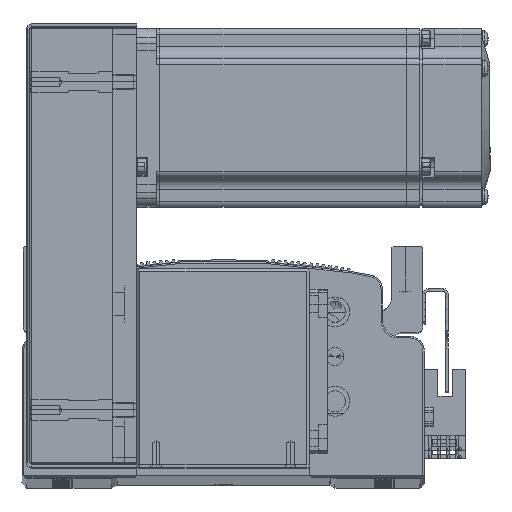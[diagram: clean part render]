
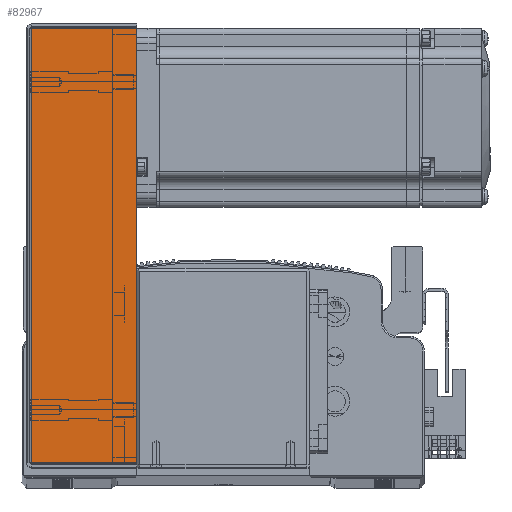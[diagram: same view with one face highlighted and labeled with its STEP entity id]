
A CAD part, top view. The second image highlights one B-rep face of the part: STEP entity #82967.
In plain terms, the highlighted planar face has unit normal (0, 0, 1).
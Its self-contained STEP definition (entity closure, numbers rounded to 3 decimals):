
#5735 = CARTESIAN_POINT ( 'NONE',  ( 72.793, 36., 34.5 ) ) ;
#5770 = CARTESIAN_POINT ( 'NONE',  ( -72.793, 36., 34.5 ) ) ;
#5776 = CARTESIAN_POINT ( 'NONE',  ( 72.793, 0.737, 34.5 ) ) ;
#5821 = CARTESIAN_POINT ( 'NONE',  ( -72.793, 0.737, 34.5 ) ) ;
#6576 = PLANE ( 'NONE',  #48467 ) ;
#6578 = CARTESIAN_POINT ( 'NONE',  ( 0., 0., 34.5 ) ) ;
#6594 = DIRECTION ( 'NONE',  ( -1., 0., 0. ) ) ;
#6612 = DIRECTION ( 'NONE',  ( 0., 0., -1. ) ) ;
#14971 = FACE_OUTER_BOUND ( 'NONE', #81177, .T. ) ;
#21594 = ORIENTED_EDGE ( 'NONE', *, *, #75073, .T. ) ;
#21595 = ORIENTED_EDGE ( 'NONE', *, *, #75017, .F. ) ;
#21620 = ORIENTED_EDGE ( 'NONE', *, *, #75057, .T. ) ;
#21624 = ORIENTED_EDGE ( 'NONE', *, *, #75027, .F. ) ;
#31761 = VECTOR ( 'NONE', #52332, 1000. ) ;
#31770 = LINE ( 'NONE', #52325, #31761 ) ;
#32907 = LINE ( 'NONE', #51739, #32924 ) ;
#32924 = VECTOR ( 'NONE', #51713, 1000. ) ;
#32944 = LINE ( 'NONE', #51894, #32952 ) ;
#32952 = VECTOR ( 'NONE', #51862, 1000. ) ;
#32975 = VECTOR ( 'NONE', #52124, 1000. ) ;
#33006 = LINE ( 'NONE', #52229, #32975 ) ;
#48467 = AXIS2_PLACEMENT_3D ( 'NONE', #6578, #6612, #6594 ) ;
#51713 = DIRECTION ( 'NONE',  ( 0., 1., 0. ) ) ;
#51739 = CARTESIAN_POINT ( 'NONE',  ( -72.793, 0., 34.5 ) ) ;
#51862 = DIRECTION ( 'NONE',  ( -1., 0., 0. ) ) ;
#51894 = CARTESIAN_POINT ( 'NONE',  ( -74.5, 0.737, 34.5 ) ) ;
#52124 = DIRECTION ( 'NONE',  ( -1., 0., 0. ) ) ;
#52229 = CARTESIAN_POINT ( 'NONE',  ( 0., 36., 34.5 ) ) ;
#52325 = CARTESIAN_POINT ( 'NONE',  ( 72.793, 0., 34.5 ) ) ;
#52332 = DIRECTION ( 'NONE',  ( 0., 1., 0. ) ) ;
#75017 = EDGE_CURVE ( 'NONE', #80609, #80556, #32907, .T. ) ;
#75027 = EDGE_CURVE ( 'NONE', #80530, #80609, #32944, .T. ) ;
#75057 = EDGE_CURVE ( 'NONE', #80558, #80556, #33006, .T. ) ;
#75073 = EDGE_CURVE ( 'NONE', #80530, #80558, #31770, .T. ) ;
#80530 = VERTEX_POINT ( 'NONE', #5776 ) ;
#80556 = VERTEX_POINT ( 'NONE', #5770 ) ;
#80558 = VERTEX_POINT ( 'NONE', #5735 ) ;
#80609 = VERTEX_POINT ( 'NONE', #5821 ) ;
#81177 = EDGE_LOOP ( 'NONE', ( #21624, #21594, #21620, #21595 ) ) ;
#82967 = ADVANCED_FACE ( 'NONE', ( #14971 ), #6576, .F. ) ;
